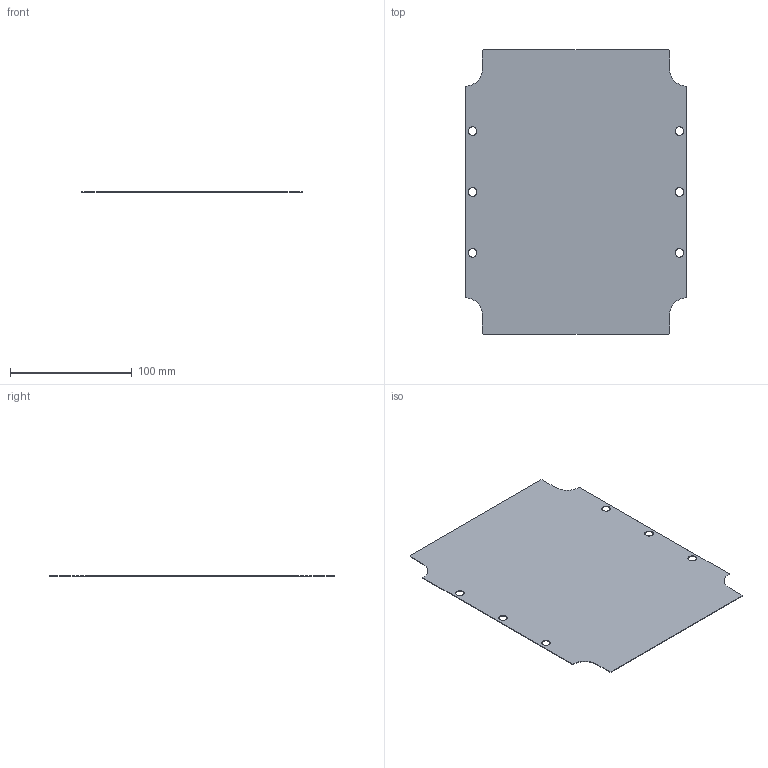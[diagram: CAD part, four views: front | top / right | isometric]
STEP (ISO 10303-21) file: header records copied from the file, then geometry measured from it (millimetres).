
FILE_DESCRIPTION((''),'2;1');
FILE_NAME('c:\temp\233PL.stp','2006-07-18T13:50:39',('kbond'),(''),'Autodesk Inventor 11','Autodesk Inventor 11','');
FILE_SCHEMA(('AUTOMOTIVE_DESIGN { 1 0 10303 214 1 1 1 1 }'));
Length unit declared in the file: millimetre
Products named in the file (1): 233PL
Bounding box: 182 x 234 x 0.5 mm (x, y, z)
Volume: 20421.7 mm3; surface area: 82155.4 mm2
Topology: 1 solids, 1 shells, 24 faces, 72 edges, 50 vertices
Faces by surface type: plane 14, bspline 6, cylinder 4
Entity records: 865 total; most frequent: CARTESIAN_POINT 231, ORIENTED_EDGE 120, DIRECTION 118, EDGE_CURVE 60, VERTEX_POINT 44, EDGE_LOOP 42, VECTOR 40, LINE 40
